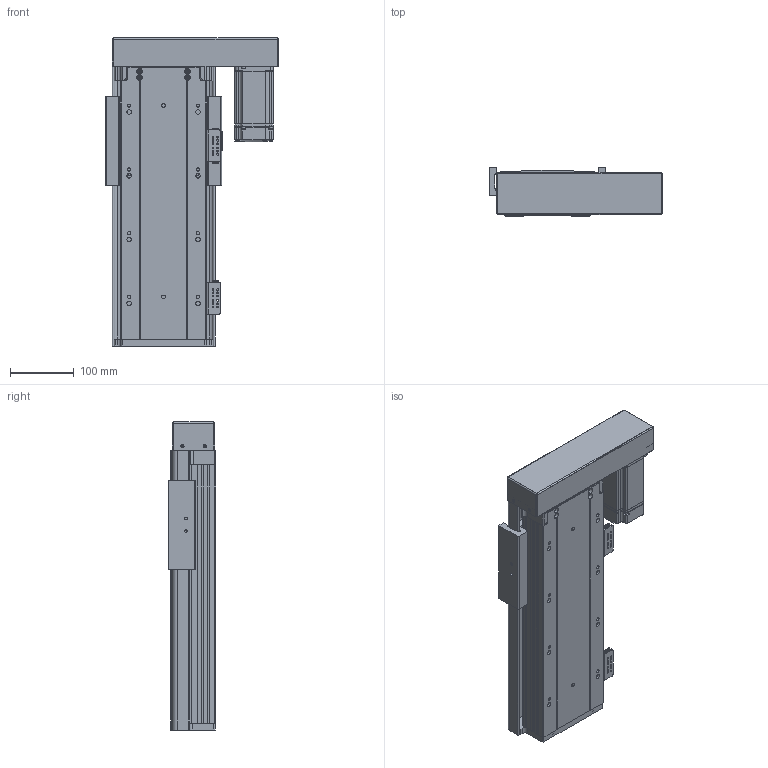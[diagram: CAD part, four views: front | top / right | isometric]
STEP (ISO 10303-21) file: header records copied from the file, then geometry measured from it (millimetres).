
FILE_DESCRIPTION (( 'STEP AP203' ), '1' );
FILE_NAME ('RY140FB-L2010-300-RK.SLDASM_200.step', '2021-02-23T02:40:45', ( '盈信电脑' ), ( '东莞市道滘镇水果街19号' ), 'SwSTEP 2.0', 'SolidWorks 2012', '' );
FILE_SCHEMA (( 'CONFIG_CONTROL_DESIGN' ));
Length unit declared in the file: millimetre
Products named in the file (17): RY140FB-L2010-300-RK.SLDASM_200; RY140FB-酘衵殏萇儂欶; RY140-674嫖萇耀輸; RY140FB-左右折电机安装板; RY140FB-覜茼え; RY140FB-300蛌殏奻裔啣-RK_200; 覜茼ん674; RY140FB-20佪裝臏賑輸; RY140直线电机感应器674光电安装座; 15; RY140FB-转折电机端支撑座(7002); 滅袉蝶18-10; 侂狟400W侜督萇儂; RY140FB-綴裔啣; RY140FB-300蛌殏倰第菁釱-RK_200; 滅袉蝶18-24
Assembly tree (20 placements, depth 3):
  RY140FB-L2010-300-RK.SLDASM_200
    RY140FB-300蛌殏倰第菁釱-RK_200
    RY140FB-綴裔啣
    滅袉蝶18-24  x2
    滅袉蝶18-10
    RY140FB-转折电机端支撑座(7002)
    侂狟400W侜督萇儂
      15
    RY140FB-20佪裝臏賑輸
    RY140FB-300蛌殏奻裔啣-RK_200
    RY140-674嫖萇耀輸
      覜茼ん674
      RY140直线电机感应器674光电安装座
    RY140-674嫖萇耀輸
      覜茼ん674  x2
      RY140直线电机感应器674光电安装座
    RY140FB-覜茼え
    RY140FB-左右折电机安装板
    RY140FB-酘衵殏萇儂欶
Bounding box: 271.3 x 75 x 483.2 mm (x, y, z)
Volume: 2572532.7 mm3; surface area: 812955.8 mm2
Topology: 17 solids, 17 shells, 1646 faces, 4447 edges, 2839 vertices
Faces by surface type: cylinder 757, plane 723, cone 138, bspline 28
Entity records: 48777 total; most frequent: CARTESIAN_POINT 9527, DIRECTION 7984, ORIENTED_EDGE 7666, EDGE_CURVE 3833, AXIS2_PLACEMENT_3D 2860, VERTEX_POINT 2507, LINE 2264, VECTOR 2264
